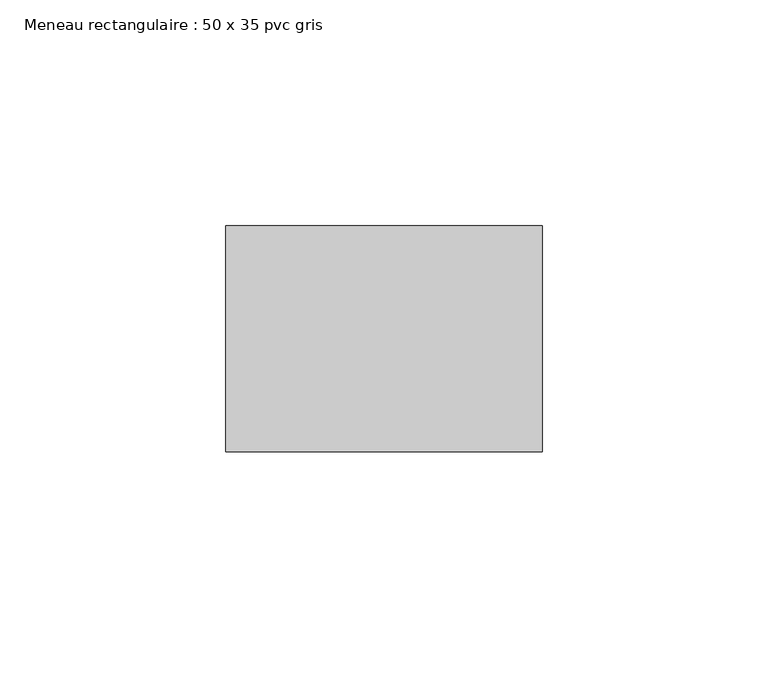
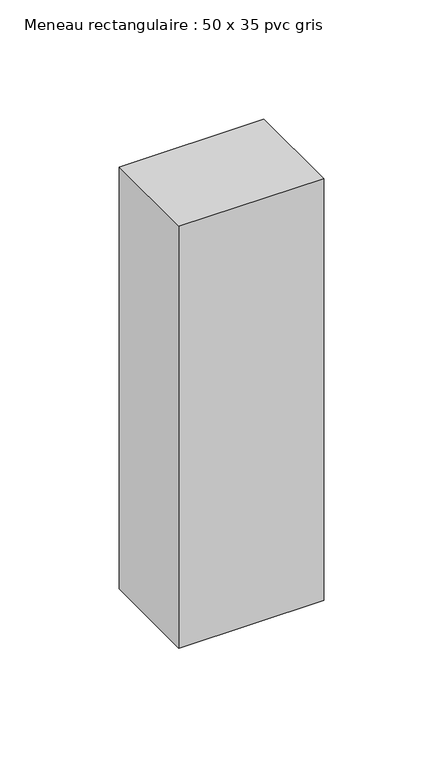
"""IFC4 building model written with IfcOpenShell, lengths in millimetres: member geometry, Meneau rectangulaire : 50 x 35 pvc gris."""

from ifc_helpers import new_model, si_unit, frame, origin, place, context, project, spatial, polyline, outline, extrude, source, transform, mapped, element, save


def meneau_rectangulaire_50_x_35_pvc_gris_8b374a40(model_context):
    return source(origin(), model_context, "Body", "SweptSolid", [
        extrude(outline(polyline([(35.0, 0.0), (35.0, -50.0), (-35.0, -50.0), (-35.0, 0.0), (35.0, 0.0)])), frame((0.0, 0.0, -216.0), z_axis=(0.0, 0.0, 1.0), x_axis=(1.0, 0.0, 0.0)), (0.0, 0.0, 1.0), 216.0),
    ])


if __name__ == "__main__":
    model = new_model("IFC4")
    model_context = context("Model", 3, world=origin())
    ifc_project = project(units=[si_unit("LENGTHUNIT", "METRE", prefix="MILLI")], contexts=[model_context])
    site = spatial("IfcSite", under=ifc_project)
    building = spatial("IfcBuilding", under=site)
    placement = place(None, origin())
    meneau_rectangulaire_50_x_35_pvc_gris_shape = meneau_rectangulaire_50_x_35_pvc_gris_8b374a40(model_context)
    element("IfcMember", 1, ObjectType="Meneau rectangulaire : 50 x 35 pvc gris", at=placement, inside=building, context=model_context, shape_type="MappedRepresentation", body=[
        mapped(meneau_rectangulaire_50_x_35_pvc_gris_shape, transform((0.0, 0.0, 0.0), x_axis=(1.0, 0.0, 0.0), y_axis=(0.0, 1.0, 0.0), z_axis=(0.0, 0.0, 1.0))),
    ])
    save(model, "model.ifc")
